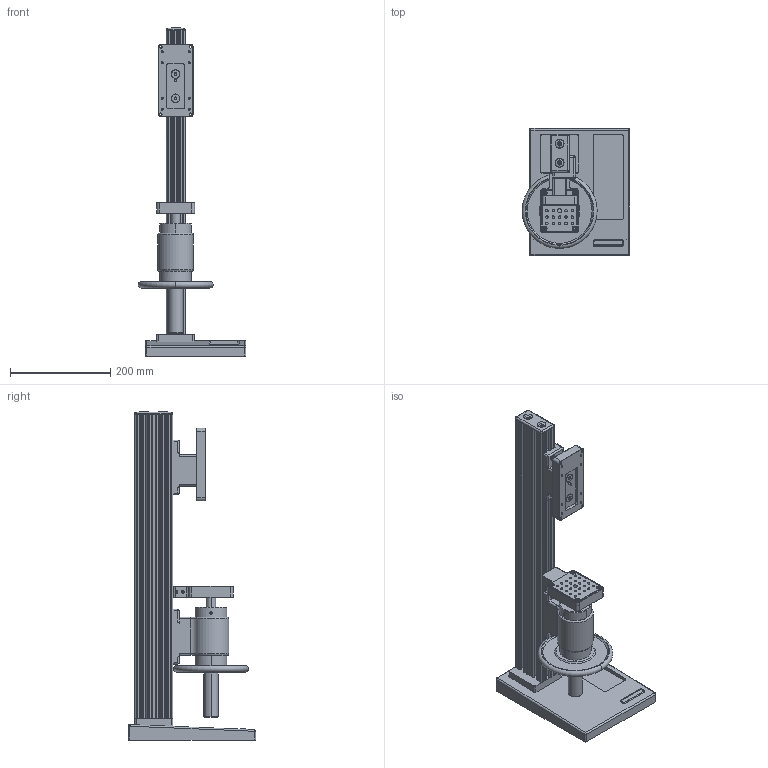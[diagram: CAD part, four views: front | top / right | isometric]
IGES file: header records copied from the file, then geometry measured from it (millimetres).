
Global section: file name: No Iges File Name specified; native system: Autodesk Inventor 2010; preprocessor: AutoDesk Inventor Iges Exporter R2010; author: mlampen; date: 20170621.145803; units: inch
Bounding box: 215.26 x 254 x 658.57 mm (x, y, z)
Volume: 3536473.8 mm3; surface area: 747477.3 mm2
Topology: 5 solids, 12 shells, 1721 faces, 4486 edges, 2890 vertices
Faces by surface type: plane 640, revolution 531, cylinder 331, cone 155, sphere 29, bspline 21, torus 14
Full cylindrical faces by diameter (mm): 4.7 x48, 6.104 x7, 6.35 x30, 7.938 x7
